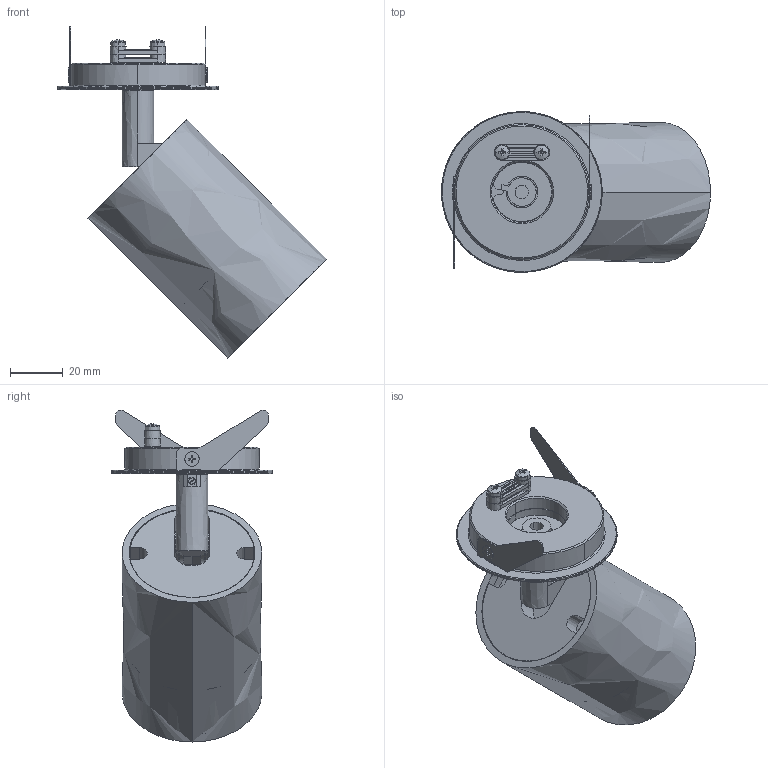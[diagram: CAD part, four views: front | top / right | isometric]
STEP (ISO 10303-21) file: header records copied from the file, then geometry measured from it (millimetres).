
FILE_DESCRIPTION(/* description */ (''),/* implementation_level */ '2;1');
FILE_NAME(/* name */ 'X123__.010',/* time_stamp */ '2024-08-30T12:26:30+02:00',/* author */ (''),/* organization */ (''),/* preprocessor_version */ 'ST-DEVELOPER v16.5',/* originating_system */ '',/* authorisation */ '');
FILE_SCHEMA (('AUTOMOTIVE_DESIGN'));
Length unit declared in the file: millimetre
Products named in the file (1): Document
Bounding box: 102.08 x 61 x 126 mm (x, y, z)
Volume: 51726.2 mm3; surface area: 68970.1 mm2
Topology: 26 solids, 27 shells, 888 faces, 2248 edges, 1407 vertices
Faces by surface type: bspline 472, plane 416
Entity records: 37593 total; most frequent: CARTESIAN_POINT 24018, ORIENTED_EDGE 4434, EDGE_CURVE 2220, VERTEX_POINT 1407, B_SPLINE_CURVE_WITH_KNOTS 1306, EDGE_LOOP 972, ADVANCED_FACE 888, FACE_OUTER_BOUND 888
